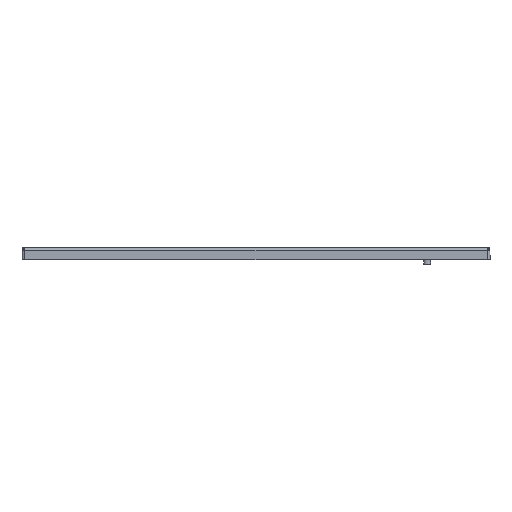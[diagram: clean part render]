
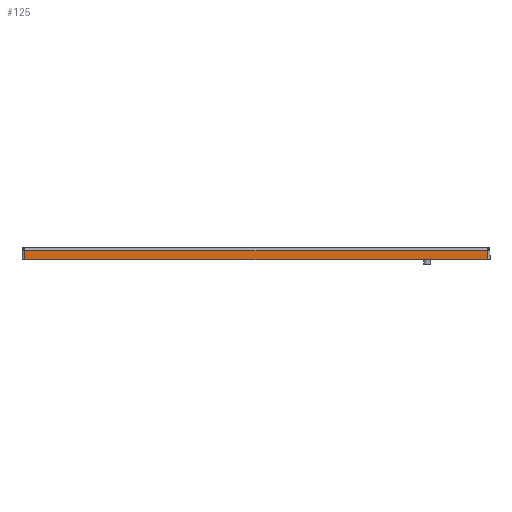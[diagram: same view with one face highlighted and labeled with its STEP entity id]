
A CAD part, left-side view. The second image highlights one B-rep face of the part: STEP entity #125.
In plain terms, the highlighted planar face has unit normal (-1, 0, 0).
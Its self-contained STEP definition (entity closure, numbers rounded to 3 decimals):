
#125=ADVANCED_FACE('',(#1291),#1293,.F.);
#1291=FACE_BOUND('',#1292,.T.);
#1292=EDGE_LOOP('',(#5482,#5483,#5484,#5485));
#1293=PLANE('',#1294);
#1294=AXIS2_PLACEMENT_3D('',#1295,#1296,#1297);
#1295=CARTESIAN_POINT('',(-193.2,0.,0.));
#1296=DIRECTION('',(1.,0.,0.));
#1297=DIRECTION('',(0.,0.,-1.));
#5482=ORIENTED_EDGE('',*,*,#8019,.F.);
#5483=ORIENTED_EDGE('',*,*,#8021,.F.);
#5484=ORIENTED_EDGE('',*,*,#8022,.F.);
#5485=ORIENTED_EDGE('',*,*,#8023,.F.);
#8019=EDGE_CURVE('',#10069,#10062,#10073,.T.);
#8021=EDGE_CURVE('',#10075,#10069,#10076,.T.);
#8022=EDGE_CURVE('',#10077,#10075,#10078,.T.);
#8023=EDGE_CURVE('',#10062,#10077,#10079,.T.);
#10062=VERTEX_POINT('',#13923);
#10069=VERTEX_POINT('',#13943);
#10073=LINE('',#13954,#13955);
#10075=VERTEX_POINT('',#13960);
#10076=LINE('',#13961,#13962);
#10077=VERTEX_POINT('',#13964);
#10078=LINE('',#13965,#13966);
#10079=LINE('',#13968,#13969);
#13923=CARTESIAN_POINT('',(-193.2,-270.3,-3.2));
#13943=CARTESIAN_POINT('',(-193.2,270.3,-3.2));
#13954=CARTESIAN_POINT('',(-193.2,270.3,-3.2));
#13955=VECTOR('',#13956,1.);
#13956=DIRECTION('',(0.,-1.,0.));
#13960=CARTESIAN_POINT('',(-193.2,270.3,-14.));
#13961=CARTESIAN_POINT('',(-193.2,270.3,-14.));
#13962=VECTOR('',#13963,1.);
#13963=DIRECTION('',(0.,0.,1.));
#13964=CARTESIAN_POINT('',(-193.2,-270.3,-14.));
#13965=CARTESIAN_POINT('',(-193.2,-270.3,-14.));
#13966=VECTOR('',#13967,1.);
#13967=DIRECTION('',(0.,1.,0.));
#13968=CARTESIAN_POINT('',(-193.2,-270.3,-3.2));
#13969=VECTOR('',#13970,1.);
#13970=DIRECTION('',(0.,0.,-1.));
